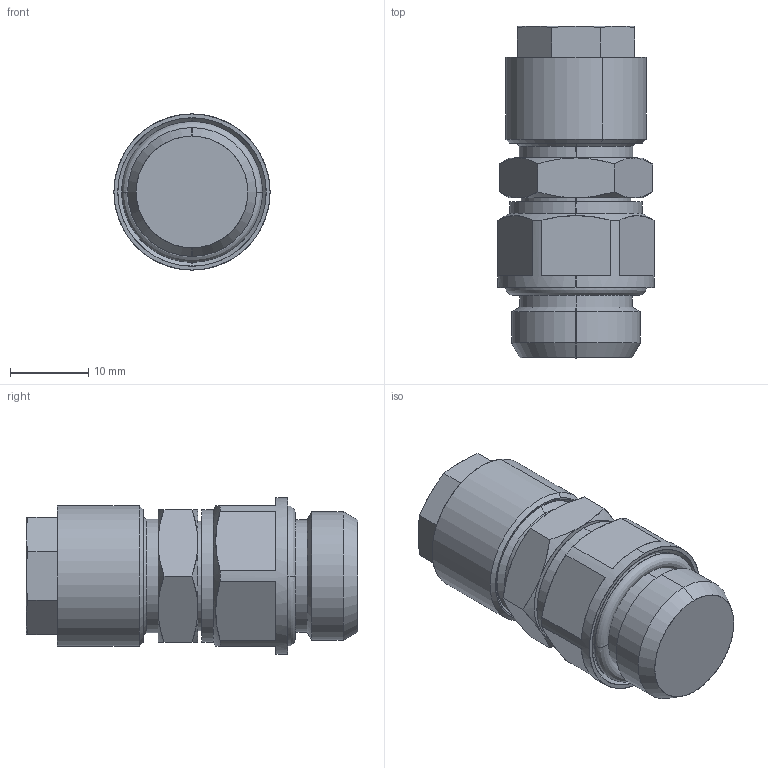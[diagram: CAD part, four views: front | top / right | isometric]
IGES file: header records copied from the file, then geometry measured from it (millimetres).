
Start section: SolidWorks IGES file using analytic representation for surfaces
Global section: file name: K:\Disegni Esecutivi\Serie 1000\Complessivi Serie 1000\1015\1015_iges\0101500007A.IGS; native system: SolidWorks 2008; preprocessor: SolidWorks 2008; author: cad05; date: 090121.170950; units: millimetre
Bounding box: 20 x 42.5 x 20 mm (x, y, z)
Surface area: 3790.7 mm2 (no closed solid volume)
Topology: 0 solids, 0 shells, 106 faces, 1251 edges, 1249 vertices
Faces by surface type: revolution 59, bspline 47
